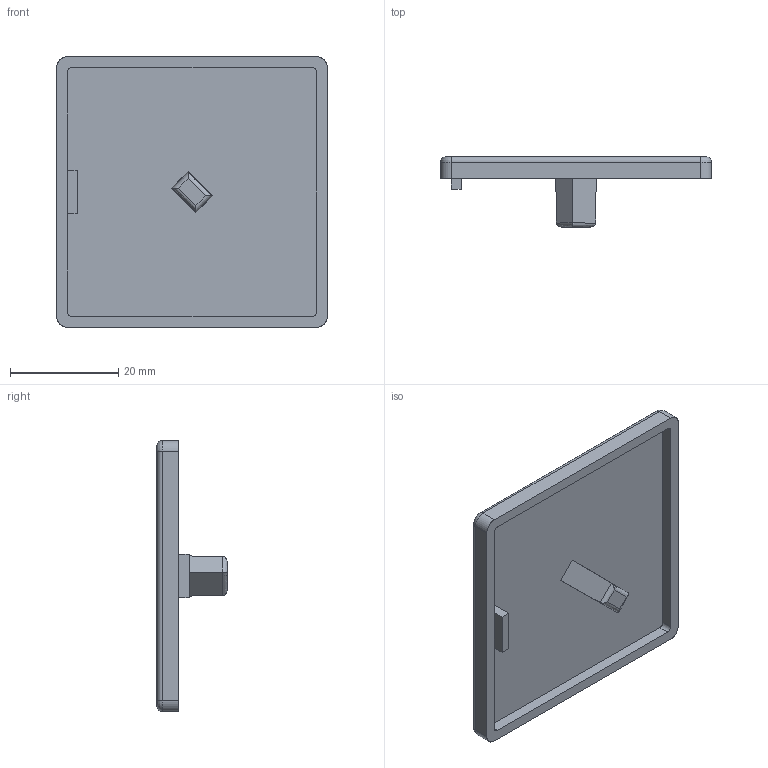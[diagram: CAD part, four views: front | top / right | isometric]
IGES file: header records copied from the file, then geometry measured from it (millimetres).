
Start section: SolidWorks IGES file using analytic representation for surfaces
Global section: file name: C:\Users\sr-d11\Desktop\ホームページ用\IGES\J5C5\J5C5.IGS; native system: SolidWorks 2014; preprocessor: SolidWorks 2014; author: sr-d11; date: 180829.132517; units: millimetre
Bounding box: 50 x 13 x 50 mm (x, y, z)
Surface area: 6326 mm2 (no closed solid volume)
Topology: 0 solids, 0 shells, 42 faces, 312 edges, 312 vertices
Faces by surface type: bspline 26, revolution 16
